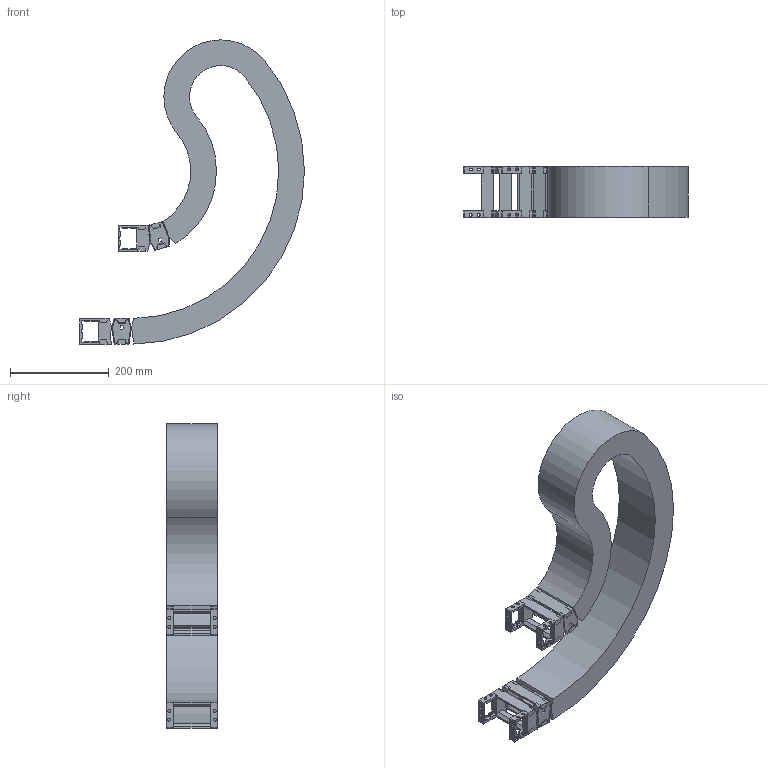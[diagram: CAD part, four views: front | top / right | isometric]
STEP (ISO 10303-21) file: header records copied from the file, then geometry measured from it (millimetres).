
FILE_DESCRIPTION( ( 'STEP AP214' ), '1' );
FILE_NAME( 'e:/temp/worker_57/temp/exporttempdir_1080_117_ld6Ly/format_1/RV040CRA10311112070230340-00751890.0647.stp', '2021-07-26T15:24:24', ( 'License CC BY-ND 4.0' ), ( 'CADENAS' ), ' ', 'PARTsolutions', ' ' );
FILE_SCHEMA( ( 'AUTOMOTIVE_DESIGN { 1 0 10303 214 1 1 1 1 }' ) );
Length unit declared in the file: millimetre
Products named in the file (4): RV040CRA10311112070230340-00751890.0647; _RV040CRA10311112070230340-00751152.16-Chain; _RV040CR-SU-40-75; _RV040CR_FB-103
Assembly tree (5 placements, depth 2):
  RV040CRA10311112070230340-00751890.0647
    _RV040CRA10311112070230340-00751152.16-Chain
    _RV040CR-SU-40-75  x2
    _RV040CR_FB-103  x2
Bounding box: 455 x 103 x 615.45 mm (x, y, z)
Volume: 3276314.7 mm3; surface area: 785132.4 mm2
Topology: 5 solids, 5 shells, 692 faces, 2020 edges, 1332 vertices
Faces by surface type: plane 524, cylinder 168
Full cylindrical faces by diameter (mm): 6 x24
Entity records: 14556 total; most frequent: CARTESIAN_POINT 2056, ORIENTED_EDGE 2036, DIRECTION 1930, EDGE_CURVE 1018, LINE 830, VECTOR 830, VERTEX_POINT 676, AXIS2_PLACEMENT_3D 550
